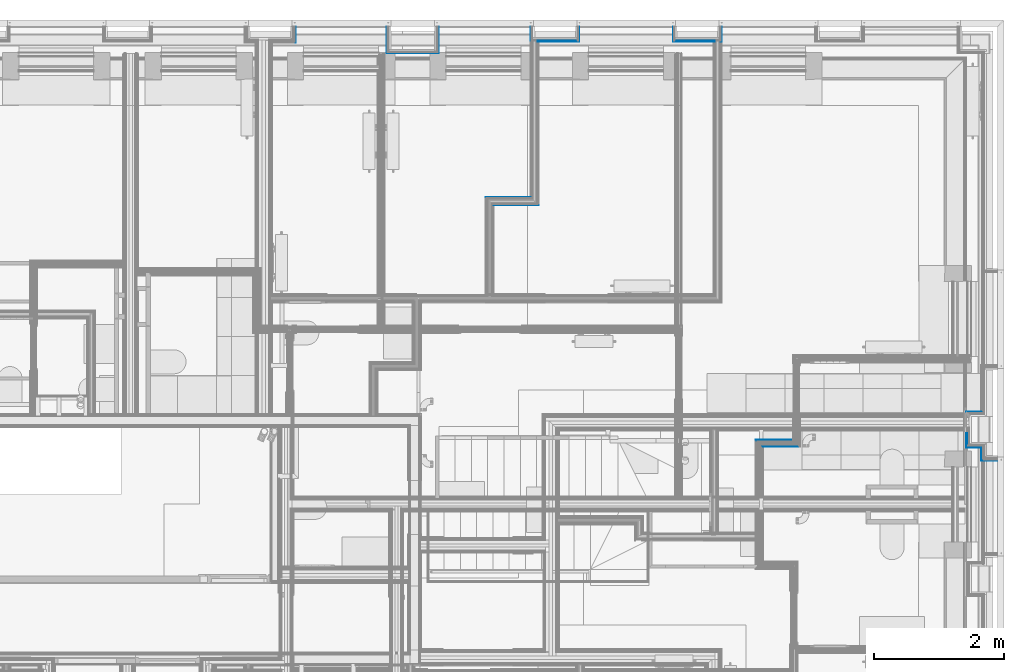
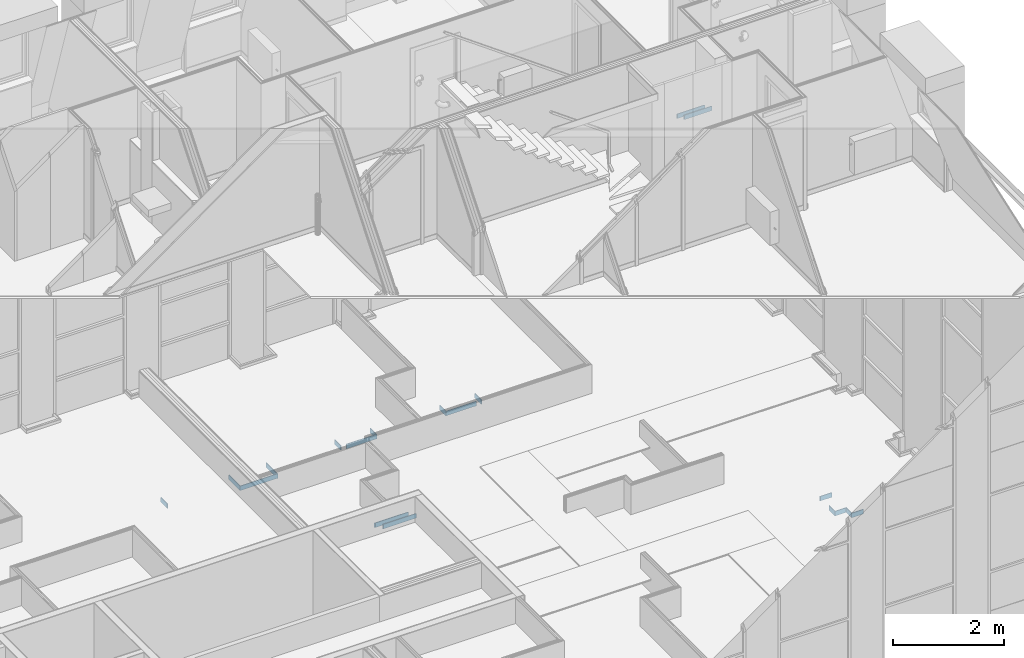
# One storey, part 66 of 169: 19 building element parts, 17 elements without a shape of their own.
"""IFC2X3 building model written with IfcOpenShell, lengths in metres."""

from ifc_helpers import new_model, entity, si_unit, converted_unit, derived_unit, money_unit, direction, frame, frame_2d, origin_with_axes, place, context, subcontext, project, spatial, polyline, rectangle, outline, extrude, material, type_object, element, aggregate, save


model = new_model("IFC2X3")

# Units and contexts
model_context = context("Model", 3, precision=1e-05, world=origin_with_axes(), true_north=direction((0.0, 1.0)))
body_context = subcontext(model_context, "Body", "Model", "MODEL_VIEW", scale=1.0)
ifc_project = project(units=[si_unit("LENGTHUNIT", "METRE"), si_unit("AREAUNIT", "SQUARE_METRE"), si_unit("VOLUMEUNIT", "CUBIC_METRE"), si_unit("ABSORBEDDOSEUNIT", "GRAY"), si_unit("AMOUNTOFSUBSTANCEUNIT", "MOLE"), si_unit("DOSEEQUIVALENTUNIT", "SIEVERT"), si_unit("ELECTRICCAPACITANCEUNIT", "FARAD"), si_unit("ELECTRICCHARGEUNIT", "COULOMB"), si_unit("ELECTRICCONDUCTANCEUNIT", "SIEMENS"), si_unit("ELECTRICCURRENTUNIT", "AMPERE"), si_unit("ELECTRICRESISTANCEUNIT", "OHM"), si_unit("ELECTRICVOLTAGEUNIT", "VOLT"), si_unit("ENERGYUNIT", "JOULE"), si_unit("FORCEUNIT", "NEWTON"), si_unit("FREQUENCYUNIT", "HERTZ"), si_unit("ILLUMINANCEUNIT", "LUX"), si_unit("INDUCTANCEUNIT", "HENRY"), si_unit("LUMINOUSFLUXUNIT", "LUMEN"), si_unit("LUMINOUSINTENSITYUNIT", "CANDELA"), si_unit("MAGNETICFLUXDENSITYUNIT", "TESLA"), si_unit("MAGNETICFLUXUNIT", "WEBER"), si_unit("MASSUNIT", "GRAM"), converted_unit("PLANEANGLEUNIT", "degree", entity("IfcReal", 0.0174532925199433), si_unit("PLANEANGLEUNIT", "RADIAN"), dimensions=[0, 0, 0, 0, 0, 0, 0]), si_unit("POWERUNIT", "WATT"), si_unit("PRESSUREUNIT", "PASCAL"), si_unit("RADIOACTIVITYUNIT", "BECQUEREL"), si_unit("SOLIDANGLEUNIT", "STERADIAN"), si_unit("THERMODYNAMICTEMPERATUREUNIT", "KELVIN"), si_unit("TIMEUNIT", "SECOND"), derived_unit("ACCELERATIONUNIT", [(si_unit("LENGTHUNIT", "METRE"), 1), (si_unit("TIMEUNIT", "SECOND"), -2)]), derived_unit("ANGULARVELOCITYUNIT", [(converted_unit("PLANEANGLEUNIT", "degree", entity("IfcReal", 0.0174532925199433), si_unit("PLANEANGLEUNIT", "RADIAN"), dimensions=[0, 0, 0, 0, 0, 0, 0]), 1), (si_unit("TIMEUNIT", "SECOND"), -1)]), derived_unit("CURVATUREUNIT", [(converted_unit("PLANEANGLEUNIT", "degree", entity("IfcReal", 0.0174532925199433), si_unit("PLANEANGLEUNIT", "RADIAN"), dimensions=[0, 0, 0, 0, 0, 0, 0]), 1), (si_unit("LENGTHUNIT", "METRE"), -1)]), derived_unit("DYNAMICVISCOSITYUNIT", [(si_unit("PRESSUREUNIT", "PASCAL"), 1), (si_unit("TIMEUNIT", "SECOND"), 1)]), derived_unit("HEATFLUXDENSITYUNIT", [(si_unit("POWERUNIT", "WATT"), 1), (si_unit("LENGTHUNIT", "METRE"), -2)]), derived_unit("HEATINGVALUEUNIT", [(si_unit("ENERGYUNIT", "JOULE"), 1), (si_unit("MASSUNIT", "GRAM"), -1)]), derived_unit("INTEGERCOUNTRATEUNIT", [(si_unit("TIMEUNIT", "SECOND"), -1)]), derived_unit("IONCONCENTRATIONUNIT", [(si_unit("MASSUNIT", "GRAM"), 1), (si_unit("VOLUMEUNIT", "CUBIC_METRE"), -1)]), derived_unit("ISOTHERMALMOISTURECAPACITYUNIT", [(si_unit("VOLUMEUNIT", "CUBIC_METRE"), 1), (si_unit("MASSUNIT", "GRAM"), -1)]), derived_unit("KINEMATICVISCOSITYUNIT", [(si_unit("AREAUNIT", "SQUARE_METRE"), 1), (si_unit("TIMEUNIT", "SECOND"), -1)]), derived_unit("LINEARFORCEUNIT", [(si_unit("FORCEUNIT", "NEWTON"), 1), (si_unit("LENGTHUNIT", "METRE"), -1)]), derived_unit("LINEARMOMENTUNIT", [(si_unit("FORCEUNIT", "NEWTON"), 1), (si_unit("LENGTHUNIT", "METRE"), -1)]), derived_unit("LINEARSTIFFNESSUNIT", [(si_unit("FORCEUNIT", "NEWTON"), 1), (si_unit("LENGTHUNIT", "METRE"), -1)]), derived_unit("LINEARVELOCITYUNIT", [(si_unit("LENGTHUNIT", "METRE"), 1), (si_unit("TIMEUNIT", "SECOND"), -1)]), derived_unit("LUMINOUSINTENSITYDISTRIBUTIONUNIT", [(si_unit("LUMINOUSINTENSITYUNIT", "CANDELA"), 1), (si_unit("LUMINOUSFLUXUNIT", "LUMEN"), -1)]), derived_unit("MASSDENSITYUNIT", [(si_unit("MASSUNIT", "GRAM"), 1), (si_unit("VOLUMEUNIT", "CUBIC_METRE"), -1)]), derived_unit("MASSFLOWRATEUNIT", [(si_unit("MASSUNIT", "GRAM"), 1), (si_unit("TIMEUNIT", "SECOND"), -1)]), derived_unit("MASSPERLENGTHUNIT", [(si_unit("MASSUNIT", "GRAM"), 1), (si_unit("LENGTHUNIT", "METRE"), -1)]), derived_unit("MODULUSOFELASTICITYUNIT", [(si_unit("FORCEUNIT", "NEWTON"), 1), (si_unit("AREAUNIT", "SQUARE_METRE"), -1)]), derived_unit("MODULUSOFLINEARSUBGRADEREACTIONUNIT", [(si_unit("FORCEUNIT", "NEWTON"), 1), (si_unit("LENGTHUNIT", "METRE"), -2)]), derived_unit("MODULUSOFROTATIONALSUBGRADEREACTIONUNIT", [(si_unit("FORCEUNIT", "NEWTON"), 1), (si_unit("LENGTHUNIT", "METRE"), 1)]), derived_unit("MODULUSOFSUBGRADEREACTIONUNIT", [(si_unit("FORCEUNIT", "NEWTON"), 1), (si_unit("VOLUMEUNIT", "CUBIC_METRE"), -1)]), derived_unit("MOISTUREDIFFUSIVITYUNIT", [(si_unit("VOLUMEUNIT", "CUBIC_METRE"), 1), (si_unit("TIMEUNIT", "SECOND"), -1)]), derived_unit("MOLECULARWEIGHTUNIT", [(si_unit("MASSUNIT", "GRAM"), 1), (si_unit("AMOUNTOFSUBSTANCEUNIT", "MOLE"), -1)]), derived_unit("PLANARFORCEUNIT", [(si_unit("FORCEUNIT", "NEWTON"), 1), (si_unit("LENGTHUNIT", "METRE"), -2)]), derived_unit("ROTATIONALFREQUENCYUNIT", [(si_unit("TIMEUNIT", "SECOND"), -1)]), derived_unit("ROTATIONALMASSUNIT", [(si_unit("MASSUNIT", "GRAM"), 1), (si_unit("LENGTHUNIT", "METRE"), 2)]), derived_unit("ROTATIONALSTIFFNESSUNIT", [(si_unit("FORCEUNIT", "NEWTON"), 1), (si_unit("LENGTHUNIT", "METRE"), 1), (converted_unit("PLANEANGLEUNIT", "degree", entity("IfcReal", 0.0174532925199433), si_unit("PLANEANGLEUNIT", "RADIAN"), dimensions=[0, 0, 0, 0, 0, 0, 0]), -1)]), derived_unit("SECTIONAREAINTEGRALUNIT", [(si_unit("LENGTHUNIT", "METRE"), 5)]), derived_unit("SECTIONMODULUSUNIT", [(si_unit("LENGTHUNIT", "METRE"), 3)]), derived_unit("SHEARMODULUSUNIT", [(si_unit("FORCEUNIT", "NEWTON"), 1), (si_unit("AREAUNIT", "SQUARE_METRE"), -1)]), derived_unit("SOUNDPOWERUNIT", [(si_unit("ENERGYUNIT", "JOULE"), 1), (si_unit("TIMEUNIT", "SECOND"), -1)]), derived_unit("SPECIFICHEATCAPACITYUNIT", [(si_unit("FORCEUNIT", "NEWTON"), 1), (si_unit("MASSUNIT", "GRAM"), -1), (si_unit("THERMODYNAMICTEMPERATUREUNIT", "KELVIN"), -1)]), derived_unit("TEMPERATUREGRADIENTUNIT", [(si_unit("THERMODYNAMICTEMPERATUREUNIT", "KELVIN"), 1), (si_unit("LENGTHUNIT", "METRE"), -1)]), derived_unit("THERMALADMITTANCEUNIT", [(si_unit("POWERUNIT", "WATT"), 1), (si_unit("AREAUNIT", "SQUARE_METRE"), -1), (si_unit("THERMODYNAMICTEMPERATUREUNIT", "KELVIN"), -1)]), derived_unit("THERMALCONDUCTANCEUNIT", [(si_unit("POWERUNIT", "WATT"), 1), (si_unit("LENGTHUNIT", "METRE"), -1), (si_unit("THERMODYNAMICTEMPERATUREUNIT", "KELVIN"), -1)]), derived_unit("THERMALEXPANSIONCOEFFICIENTUNIT", [(si_unit("THERMODYNAMICTEMPERATUREUNIT", "KELVIN"), -1)]), derived_unit("THERMALRESISTANCEUNIT", [(si_unit("AREAUNIT", "SQUARE_METRE"), 1), (si_unit("POWERUNIT", "WATT"), -1)]), derived_unit("THERMALTRANSMITTANCEUNIT", [(si_unit("POWERUNIT", "WATT"), 1), (si_unit("AREAUNIT", "SQUARE_METRE"), -1), (si_unit("THERMODYNAMICTEMPERATUREUNIT", "KELVIN"), -1)]), derived_unit("TORQUEUNIT", [(si_unit("FORCEUNIT", "NEWTON"), 1), (si_unit("LENGTHUNIT", "METRE"), 1)]), derived_unit("VAPORPERMEABILITYUNIT", [(si_unit("MASSUNIT", "GRAM"), 1), (si_unit("TIMEUNIT", "SECOND"), -1)]), derived_unit("VOLUMETRICFLOWRATEUNIT", [(si_unit("VOLUMEUNIT", "CUBIC_METRE"), 1), (si_unit("TIMEUNIT", "SECOND"), -1)]), derived_unit("WARPINGCONSTANTUNIT", [(si_unit("LENGTHUNIT", "METRE"), 6)]), derived_unit("WARPINGMOMENTUNIT", [(si_unit("FORCEUNIT", "NEWTON"), 1), (si_unit("LENGTHUNIT", "METRE"), 2)]), money_unit("GBP")], contexts=[model_context])

# Site, building, storey
site_placement = place(None, origin_with_axes())
site = spatial("IfcSite", under=ifc_project, at=site_placement, Name="Site", CompositionType="ELEMENT")
building_placement = place(site_placement, origin_with_axes())
building = spatial("IfcBuilding", under=site, at=building_placement, Name="Building01", CompositionType="ELEMENT")
storey_placement = place(building_placement, frame((0.0, 0.0, 5.15), z_axis=(0.0, 0.0, 1.0), x_axis=(1.0, 0.0, 0.0)))
storey = spatial("IfcBuildingStorey", under=building, at=storey_placement, Name="1F", CompositionType="ELEMENT", Elevation=5.15)

# Wall, building element parts
wall_type_1 = type_object("IfcWallType", Name="SHE_A-Walls_Type05a_Partition_95mm_tall", PredefinedType="NOTDEFINED")
wall_1_placement = place(storey_placement, frame((19.085284, 12.099378, 0.0), z_axis=(0.0, 0.0, 1.0), x_axis=(1.0, 0.0, 0.0)))
wall_1 = element("IfcWall", 1, at=wall_1_placement, inside=storey, type_object=wall_type_1, Name="5A", ObjectType="SHE_A-Walls_Type05a_Partition_95mm_tall")
ifc_material = material(Name="A_BSUK_Walls_Timber")
placement_1 = place(wall_1_placement, origin_with_axes())
building_element_part_1 = element("IfcBuildingElementPart", 2, at=placement_1, material=ifc_material, Name="1", context=body_context, shape_type="SweptSolid", body=[
    extrude(outline(polyline([(0.724716, -0.035), (0.035, -0.035), (0.05, -0.05), (0.739716, -0.05), (0.724716, -0.035)])), frame((0.0, 0.0, 0.015), z_axis=(0.0, 0.0, 1.0), x_axis=(1.0, 0.0, 0.0)), (0.0, 0.0, 1.0), 0.1),
])
building_element_part_2 = element("IfcBuildingElementPart", 3, at=placement_1, material=ifc_material, Name="7", context=body_context, shape_type="SweptSolid", body=[
    extrude(outline(polyline([(0.614716, 0.075), (-0.075, 0.075), (-0.06, 0.06), (0.629716, 0.06), (0.614716, 0.075)])), frame((0.0, 0.0, 0.015), z_axis=(0.0, 0.0, 1.0), x_axis=(1.0, 0.0, 0.0)), (0.0, 0.0, 1.0), 0.1),
])
aggregate(wall_1, [building_element_part_1, building_element_part_2])

# Wall, building element part
wall_type_2 = type_object("IfcWallType", Name="SHE_A-Walls_Type06f_ExternalWallInsulation_48+15mm", PredefinedType="NOTDEFINED")
wall_2_placement = place(storey_placement, frame((26.88, 8.182326, 0.0), z_axis=(0.0, 0.0, 1.0), x_axis=(-1.0, 0.0, 0.0)))
wall_2 = element("IfcWall", 4, at=wall_2_placement, inside=storey, type_object=wall_type_2, Name="6F", ObjectType="SHE_A-Walls_Type06f_ExternalWallInsulation_48+15mm")
building_element_part_3_placement = place(wall_2_placement, origin_with_axes())
building_element_part_3 = element("IfcBuildingElementPart", 5, at=building_element_part_3_placement, material=ifc_material, Name="4", context=body_context, shape_type="SweptSolid", body=[
    extrude(outline(polyline([(0.248, 0.06), (0.0, 0.06), (0.0, 0.045), (0.233, 0.045), (0.248, 0.06)])), frame((0.0, 0.0, 0.015), z_axis=(0.0, 0.0, 1.0), x_axis=(1.0, 0.0, 0.0)), (0.0, 0.0, 1.0), 0.1),
])
aggregate(wall_2, [building_element_part_3])

wall_3_placement = place(storey_placement, frame((26.692, 8.182326, 0.0), z_axis=(0.0, 0.0, 1.0), x_axis=(0.0, 1.0, 0.0)))
wall_3 = element("IfcWall", 6, at=wall_3_placement, inside=storey, type_object=wall_type_2, Name="6F", ObjectType="SHE_A-Walls_Type06f_ExternalWallInsulation_48+15mm")
building_element_part_4_placement = place(wall_3_placement, origin_with_axes())
building_element_part_4 = element("IfcBuildingElementPart", 7, at=building_element_part_4_placement, material=ifc_material, Name="4", context=body_context, shape_type="SweptSolid", body=[
    extrude(outline(polyline([(0.139674, 0.06), (-0.06, 0.06), (-0.045, 0.045), (0.154674, 0.045), (0.139674, 0.06)])), frame((0.0, 0.0, 0.015), z_axis=(0.0, 0.0, 1.0), x_axis=(1.0, 0.0, 0.0)), (0.0, 0.0, 1.0), 0.1),
])
aggregate(wall_3, [building_element_part_4])

wall_4_placement = place(storey_placement, frame((26.692, 8.382, 0.0), z_axis=(0.0, 0.0, 1.0), x_axis=(-1.0, 0.0, 0.0)))
wall_4 = element("IfcWall", 8, at=wall_4_placement, inside=storey, type_object=wall_type_2, Name="6F", ObjectType="SHE_A-Walls_Type06f_ExternalWallInsulation_48+15mm")
building_element_part_5_placement = place(wall_4_placement, origin_with_axes())
building_element_part_5 = element("IfcBuildingElementPart", 9, at=building_element_part_5_placement, material=ifc_material, Name="4", context=body_context, shape_type="SweptSolid", body=[
    extrude(outline(polyline([(0.29, 0.06), (0.06, 0.06), (0.045, 0.045), (0.275, 0.045), (0.29, 0.06)])), frame((0.0, 0.0, 0.015), z_axis=(0.0, 0.0, 1.0), x_axis=(1.0, 0.0, 0.0)), (0.0, 0.0, 1.0), 0.1),
])
aggregate(wall_4, [building_element_part_5])

wall_5_placement = place(storey_placement, frame((26.462, 8.818, 0.0), z_axis=(0.0, 0.0, 1.0), x_axis=(1.0, 0.0, 0.0)))
wall_5 = element("IfcWall", 10, at=wall_5_placement, inside=storey, type_object=wall_type_2, Name="6F", ObjectType="SHE_A-Walls_Type06f_ExternalWallInsulation_48+15mm")
building_element_part_6_placement = place(wall_5_placement, origin_with_axes())
building_element_part_6 = element("IfcBuildingElementPart", 11, at=building_element_part_6_placement, material=ifc_material, Name="4", context=body_context, shape_type="SweptSolid", body=[
    extrude(outline(polyline([(0.17, 0.06), (-0.06, 0.06), (-0.045, 0.045), (0.185, 0.045), (0.17, 0.06)])), frame((0.0, 0.0, 0.015), z_axis=(0.0, 0.0, 1.0), x_axis=(1.0, 0.0, 0.0)), (0.0, 0.0, 1.0), 0.1),
])
aggregate(wall_5, [building_element_part_6])

wall_6_placement = place(storey_placement, frame((26.462, 8.382, 0.0), z_axis=(0.0, 0.0, 1.0), x_axis=(0.0, 1.0, 0.0)))
wall_6 = element("IfcWall", 12, at=wall_6_placement, inside=storey, type_object=wall_type_2, Name="6F", ObjectType="SHE_A-Walls_Type06f_ExternalWallInsulation_48+15mm")
building_element_part_7_placement = place(wall_6_placement, origin_with_axes())
building_element_part_7 = element("IfcBuildingElementPart", 13, at=building_element_part_7_placement, material=ifc_material, Name="6", context=body_context, shape_type="SweptSolid", body=[
    extrude(outline(polyline([(-0.06, 0.06), (-0.045, 0.045), (0.16257, 0.045), (0.16257, 0.06), (-0.06, 0.06)])), frame((0.0, 0.0, 0.015), z_axis=(0.0, 0.0, 1.0), x_axis=(1.0, 0.0, 0.0)), (0.0, 0.0, 1.0), 0.1),
])
aggregate(wall_6, [building_element_part_7])

wall_7_placement = place(storey_placement, frame((16.025, 14.8, 0.0), z_axis=(0.0, 0.0, 1.0), x_axis=(0.0, -1.0, 0.0)))
wall_7 = element("IfcWall", 14, at=wall_7_placement, inside=storey, type_object=wall_type_2, Name="6F", ObjectType="SHE_A-Walls_Type06f_ExternalWallInsulation_48+15mm")
building_element_part_8_placement = place(wall_7_placement, origin_with_axes())
building_element_part_8 = element("IfcBuildingElementPart", 15, at=building_element_part_8_placement, material=ifc_material, Name="4", context=body_context, shape_type="SweptSolid", body=[
    extrude(outline(polyline([(0.248, 0.06), (0.0, 0.06), (0.0, 0.045), (0.233, 0.045), (0.248, 0.06)])), frame((0.0, 0.0, 0.015), z_axis=(0.0, 0.0, 1.0), x_axis=(1.0, 0.0, 0.0)), (0.0, 0.0, 1.0), 0.1),
])
aggregate(wall_7, [building_element_part_8])

wall_type_3 = type_object("IfcWallType", Name="SHE_A-Walls_Type06d_ExternalWallInsulation_48mm", PredefinedType="NOTDEFINED")
wall_8_placement = place(storey_placement, frame((22.577, 14.8, 0.0), z_axis=(0.0, 0.0, 1.0), x_axis=(0.0, -1.0, 0.0)))
wall_8 = element("IfcWall", 16, at=wall_8_placement, inside=storey, type_object=wall_type_3, Name="6D", ObjectType="SHE_A-Walls_Type06d_ExternalWallInsulation_48mm")
building_element_part_9_placement = place(wall_8_placement, origin_with_axes())
building_element_part_9 = element("IfcBuildingElementPart", 17, at=building_element_part_9_placement, material=ifc_material, Name="3", context=body_context, shape_type="SweptSolid", body=[
    extrude(rectangle(XDim=0.233, YDim=0.015, at=frame_2d((0.1165, 0.0555), x_axis=(-1.0, 0.0))), frame((0.0, 0.0, 0.015), z_axis=(0.0, 0.0, 1.0), x_axis=(1.0, 0.0, 0.0)), (0.0, 0.0, 1.0), 0.1),
])
aggregate(wall_8, [building_element_part_9])

wall_9_placement = place(storey_placement, frame((22.613, 14.63, 0.0), z_axis=(0.0, 0.0, 1.0), x_axis=(-1.0, 0.0, 0.0)))
wall_9 = element("IfcWall", 18, at=wall_9_placement, inside=storey, type_object=wall_type_3, Name="6D", ObjectType="SHE_A-Walls_Type06d_ExternalWallInsulation_48mm")
building_element_part_10_placement = place(wall_9_placement, origin_with_axes())
building_element_part_10 = element("IfcBuildingElementPart", 19, at=building_element_part_10_placement, material=ifc_material, Name="3", context=body_context, shape_type="SweptSolid", body=[
    extrude(outline(polyline([(0.723, 0.063), (0.083, 0.063), (0.083, 0.048), (0.708, 0.048), (0.723, 0.063)])), frame((0.0, 0.0, 0.015), z_axis=(0.0, 0.0, 1.0), x_axis=(1.0, 0.0, 0.0)), (0.0, 0.0, 1.0), 0.1),
])
aggregate(wall_9, [building_element_part_10])

wall_10_placement = place(storey_placement, frame((21.953, 14.63, 0.0), z_axis=(0.0, 0.0, 1.0), x_axis=(0.0, 1.0, 0.0)))
wall_10 = element("IfcWall", 20, at=wall_10_placement, inside=storey, type_object=wall_type_3, Name="6D", ObjectType="SHE_A-Walls_Type06d_ExternalWallInsulation_48mm")
building_element_part_11_placement = place(wall_10_placement, origin_with_axes())
building_element_part_11 = element("IfcBuildingElementPart", 21, at=building_element_part_11_placement, material=ifc_material, Name="3", context=body_context, shape_type="SweptSolid", body=[
    extrude(outline(polyline([(-0.063, 0.063), (-0.048, 0.048), (0.17, 0.048), (0.17, 0.063), (-0.063, 0.063)])), frame((0.0, 0.0, 0.015), z_axis=(0.0, 0.0, 1.0), x_axis=(1.0, 0.0, 0.0)), (0.0, 0.0, 1.0), 0.1),
])
aggregate(wall_10, [building_element_part_11])

wall_11_placement = place(storey_placement, frame((20.387, 14.8, 0.0), z_axis=(0.0, 0.0, 1.0), x_axis=(0.0, -1.0, 0.0)))
wall_11 = element("IfcWall", 22, at=wall_11_placement, inside=storey, type_object=wall_type_3, Name="6D", ObjectType="SHE_A-Walls_Type06d_ExternalWallInsulation_48mm")
building_element_part_12_placement = place(wall_11_placement, origin_with_axes())
building_element_part_12 = element("IfcBuildingElementPart", 23, at=building_element_part_12_placement, material=ifc_material, Name="3", context=body_context, shape_type="SweptSolid", body=[
    extrude(outline(polyline([(0.233, 0.063), (0.0, 0.063), (0.0, 0.048), (0.218, 0.048), (0.233, 0.063)])), frame((0.0, 0.0, 0.015), z_axis=(0.0, 0.0, 1.0), x_axis=(1.0, 0.0, 0.0)), (0.0, 0.0, 1.0), 0.1),
])
aggregate(wall_11, [building_element_part_12])

wall_12_placement = place(storey_placement, frame((20.423, 14.63, 0.0), z_axis=(0.0, 0.0, 1.0), x_axis=(-1.0, 0.0, 0.0)))
wall_12 = element("IfcWall", 24, at=wall_12_placement, inside=storey, type_object=wall_type_3, Name="6D", ObjectType="SHE_A-Walls_Type06d_ExternalWallInsulation_48mm")
building_element_part_13_placement = place(wall_12_placement, origin_with_axes())
building_element_part_13 = element("IfcBuildingElementPart", 25, at=building_element_part_13_placement, material=ifc_material, Name="3", context=body_context, shape_type="SweptSolid", body=[
    extrude(outline(polyline([(0.613, 0.063), (-0.027, 0.063), (-0.012, 0.048), (0.613, 0.048), (0.613, 0.063)])), frame((0.0, 0.0, 0.015), z_axis=(0.0, 0.0, 1.0), x_axis=(1.0, 0.0, 0.0)), (0.0, 0.0, 1.0), 0.1),
])
aggregate(wall_12, [building_element_part_13])

wall_13_placement = place(storey_placement, frame((19.763, 14.63, 0.0), z_axis=(0.0, 0.0, 1.0), x_axis=(0.0, 1.0, 0.0)))
wall_13 = element("IfcWall", 26, at=wall_13_placement, inside=storey, type_object=wall_type_3, Name="6D", ObjectType="SHE_A-Walls_Type06d_ExternalWallInsulation_48mm")
building_element_part_14_placement = place(wall_13_placement, origin_with_axes())
building_element_part_14 = element("IfcBuildingElementPart", 27, at=building_element_part_14_placement, material=ifc_material, Name="3", context=body_context, shape_type="SweptSolid", body=[
    extrude(rectangle(XDim=0.218, YDim=0.015, at=frame_2d((0.061, 0.0555), x_axis=(1.0, 0.0))), frame((0.0, 0.0, 0.015), z_axis=(0.0, 0.0, 1.0), x_axis=(1.0, 0.0, 0.0)), (0.0, 0.0, 1.0), 0.1),
])
aggregate(wall_13, [building_element_part_14])

wall_14_placement = place(storey_placement, frame((18.22, 14.8, 0.0), z_axis=(0.0, 0.0, 1.0), x_axis=(0.0, -1.0, 0.0)))
wall_14 = element("IfcWall", 28, at=wall_14_placement, inside=storey, type_object=wall_type_3, Name="6D", ObjectType="SHE_A-Walls_Type06d_ExternalWallInsulation_48mm")
building_element_part_15_placement = place(wall_14_placement, origin_with_axes())
building_element_part_15 = element("IfcBuildingElementPart", 29, at=building_element_part_15_placement, material=ifc_material, Name="3", context=body_context, shape_type="SweptSolid", body=[
    extrude(outline(polyline([(0.413, 0.063), (0.0, 0.063), (0.0, 0.048), (0.398, 0.048), (0.413, 0.063)])), frame((0.0, 0.0, 0.015), z_axis=(0.0, 0.0, 1.0), x_axis=(1.0, 0.0, 0.0)), (0.0, 0.0, 1.0), 0.1),
])
aggregate(wall_14, [building_element_part_15])

wall_15_placement = place(storey_placement, frame((18.22, 14.45, 0.0), z_axis=(0.0, 0.0, 1.0), x_axis=(-1.0, 0.0, 0.0)))
wall_15 = element("IfcWall", 30, at=wall_15_placement, inside=storey, type_object=wall_type_3, Name="6D", ObjectType="SHE_A-Walls_Type06d_ExternalWallInsulation_48mm")
building_element_part_16_placement = place(wall_15_placement, origin_with_axes())
building_element_part_16 = element("IfcBuildingElementPart", 31, at=building_element_part_16_placement, material=ifc_material, Name="3", context=body_context, shape_type="SweptSolid", body=[
    extrude(outline(polyline([(0.733, 0.063), (-0.063, 0.063), (-0.048, 0.048), (0.718, 0.048), (0.733, 0.063)])), frame((0.0, 0.0, 0.015), z_axis=(0.0, 0.0, 1.0), x_axis=(1.0, 0.0, 0.0)), (0.0, 0.0, 1.0), 0.1),
])
aggregate(wall_15, [building_element_part_16])

wall_16_placement = place(storey_placement, frame((17.55, 14.45, 0.0), z_axis=(0.0, 0.0, 1.0), x_axis=(0.0, 1.0, 0.0)))
wall_16 = element("IfcWall", 32, at=wall_16_placement, inside=storey, type_object=wall_type_3, Name="6D", ObjectType="SHE_A-Walls_Type06d_ExternalWallInsulation_48mm")
building_element_part_17_placement = place(wall_16_placement, origin_with_axes())
building_element_part_17 = element("IfcBuildingElementPart", 33, at=building_element_part_17_placement, material=ifc_material, Name="3", context=body_context, shape_type="SweptSolid", body=[
    extrude(outline(polyline([(-0.063, 0.063), (-0.048, 0.048), (0.35, 0.048), (0.35, 0.063), (-0.063, 0.063)])), frame((0.0, 0.0, 0.015), z_axis=(0.0, 0.0, 1.0), x_axis=(1.0, 0.0, 0.0)), (0.0, 0.0, 1.0), 0.1),
])
aggregate(wall_16, [building_element_part_17])

# Wall, building element parts
wall_type_4 = type_object("IfcWallType", Name="SHE_A-Walls_Type05b_Partition_80mm", PredefinedType="NOTDEFINED")
wall_17_placement = place(storey_placement, frame((23.206821, 8.401915, 9.83), z_axis=(0.0, 0.0, 1.0), x_axis=(1.0, 0.0, 0.0)))
wall_17 = element("IfcWall", 34, at=wall_17_placement, inside=storey, type_object=wall_type_4, Name="5B", ObjectType="SHE_A-Walls_Type05b_Partition_80mm")
placement_2 = place(wall_17_placement, origin_with_axes())
building_element_part_18 = element("IfcBuildingElementPart", 35, at=placement_2, material=ifc_material, Name="1", context=body_context, shape_type="SweptSolid", body=[
    extrude(outline(polyline([(0.623179, -0.052), (0.052, -0.052), (0.067, -0.067), (0.638179, -0.067), (0.623179, -0.052)])), frame((0.0, 0.0, 0.015), z_axis=(0.0, 0.0, 1.0), x_axis=(1.0, 0.0, 0.0)), (0.0, 0.0, 1.0), 0.1),
])
building_element_part_19 = element("IfcBuildingElementPart", 36, at=placement_2, material=ifc_material, Name="7", context=body_context, shape_type="SweptSolid", body=[
    extrude(outline(polyline([(0.528179, 0.043), (-0.043, 0.043), (-0.028, 0.028), (0.543179, 0.028), (0.528179, 0.043)])), frame((0.0, 0.0, 0.015), z_axis=(0.0, 0.0, 1.0), x_axis=(1.0, 0.0, 0.0)), (0.0, 0.0, 1.0), 0.1),
])
aggregate(wall_17, [building_element_part_18, building_element_part_19])

save(model, "model.ifc")
